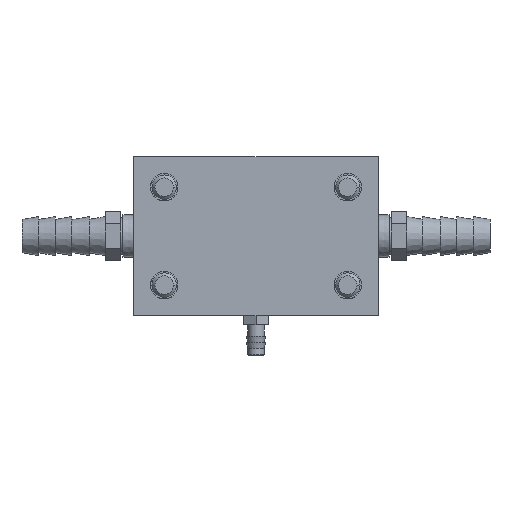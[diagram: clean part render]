
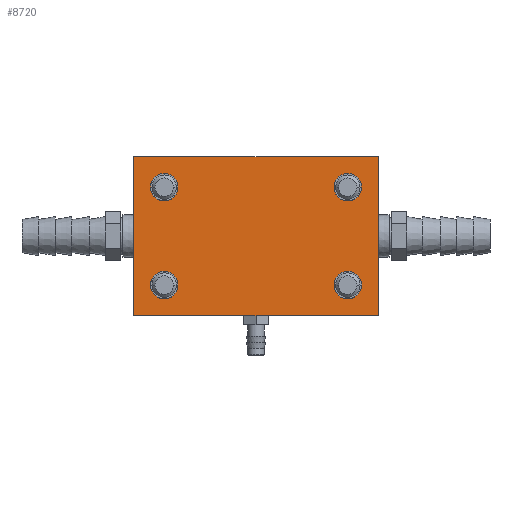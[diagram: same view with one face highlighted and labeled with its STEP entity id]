
A CAD part, left-side view. The second image highlights one B-rep face of the part: STEP entity #8720.
In plain terms, the highlighted planar face has unit normal (-1, 0, 0).
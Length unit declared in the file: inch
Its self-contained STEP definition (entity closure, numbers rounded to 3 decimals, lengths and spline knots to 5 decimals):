
#8458=CARTESIAN_POINT('',(-3.125,-0.9375,-0.5));
#8459=DIRECTION('',(1.,0.,0.));
#8460=DIRECTION('',(0.,-1.,0.));
#8461=AXIS2_PLACEMENT_3D('',#8458,#8459,#8460);
#8463=CARTESIAN_POINT('',(-3.125,-0.9375,-0.5));
#8464=DIRECTION('',(1.,0.,0.));
#8465=DIRECTION('',(0.,1.,0.));
#8466=AXIS2_PLACEMENT_3D('',#8463,#8464,#8465);
#8468=CARTESIAN_POINT('',(-3.125,0.9375,-0.5));
#8469=DIRECTION('',(1.,0.,0.));
#8470=DIRECTION('',(0.,-1.,0.));
#8471=AXIS2_PLACEMENT_3D('',#8468,#8469,#8470);
#8473=CARTESIAN_POINT('',(-3.125,0.9375,-0.5));
#8474=DIRECTION('',(1.,0.,0.));
#8475=DIRECTION('',(0.,1.,0.));
#8476=AXIS2_PLACEMENT_3D('',#8473,#8474,#8475);
#8478=CARTESIAN_POINT('',(-3.125,0.9375,0.5));
#8479=DIRECTION('',(1.,0.,0.));
#8480=DIRECTION('',(0.,-1.,0.));
#8481=AXIS2_PLACEMENT_3D('',#8478,#8479,#8480);
#8483=CARTESIAN_POINT('',(-3.125,0.9375,0.5));
#8484=DIRECTION('',(1.,0.,0.));
#8485=DIRECTION('',(0.,1.,0.));
#8486=AXIS2_PLACEMENT_3D('',#8483,#8484,#8485);
#8488=CARTESIAN_POINT('',(-3.125,-0.9375,0.5));
#8489=DIRECTION('',(1.,0.,0.));
#8490=DIRECTION('',(0.,-1.,0.));
#8491=AXIS2_PLACEMENT_3D('',#8488,#8489,#8490);
#8493=CARTESIAN_POINT('',(-3.125,-0.9375,0.5));
#8494=DIRECTION('',(1.,0.,0.));
#8495=DIRECTION('',(0.,1.,0.));
#8496=AXIS2_PLACEMENT_3D('',#8493,#8494,#8495);
#8590=DIRECTION('',(0.,0.,-1.));
#8591=VECTOR('',#8590,1.625);
#8592=CARTESIAN_POINT('',(-3.125,-1.25,0.8125));
#8593=LINE('',#8592,#8591);
#8598=DIRECTION('',(0.,1.,0.));
#8599=VECTOR('',#8598,2.5);
#8600=CARTESIAN_POINT('',(-3.125,-1.25,-0.8125));
#8601=LINE('',#8600,#8599);
#8602=DIRECTION('',(0.,0.,1.));
#8603=VECTOR('',#8602,1.625);
#8604=CARTESIAN_POINT('',(-3.125,1.25,-0.8125));
#8605=LINE('',#8604,#8603);
#8610=DIRECTION('',(0.,-1.,0.));
#8611=VECTOR('',#8610,2.5);
#8612=CARTESIAN_POINT('',(-3.125,1.25,0.8125));
#8613=LINE('',#8612,#8611);
#8622=CARTESIAN_POINT('',(-3.125,-1.25,-0.8125));
#8623=CARTESIAN_POINT('',(-3.125,1.25,-0.8125));
#8624=VERTEX_POINT('',#8622);
#8625=VERTEX_POINT('',#8623);
#8628=CARTESIAN_POINT('',(-3.125,-1.25,0.8125));
#8629=VERTEX_POINT('',#8628);
#8630=CARTESIAN_POINT('',(-3.125,1.25,0.8125));
#8631=VERTEX_POINT('',#8630);
#8634=CARTESIAN_POINT('',(-3.125,1.07813,0.5));
#8636=VERTEX_POINT('',#8634);
#8638=CARTESIAN_POINT('',(-3.125,0.79688,0.5));
#8640=VERTEX_POINT('',#8638);
#8642=CARTESIAN_POINT('',(-3.125,-0.79688,0.5));
#8644=VERTEX_POINT('',#8642);
#8646=CARTESIAN_POINT('',(-3.125,-1.07813,0.5));
#8648=VERTEX_POINT('',#8646);
#8650=CARTESIAN_POINT('',(-3.125,1.07813,-0.5));
#8652=VERTEX_POINT('',#8650);
#8654=CARTESIAN_POINT('',(-3.125,0.79688,-0.5));
#8656=VERTEX_POINT('',#8654);
#8658=CARTESIAN_POINT('',(-3.125,-0.79688,-0.5));
#8660=VERTEX_POINT('',#8658);
#8662=CARTESIAN_POINT('',(-3.125,-1.07813,-0.5));
#8664=VERTEX_POINT('',#8662);
#8682=CARTESIAN_POINT('',(-3.125,0.,0.));
#8683=DIRECTION('',(1.,0.,0.));
#8684=DIRECTION('',(0.,-1.,0.));
#8685=AXIS2_PLACEMENT_3D('',#8682,#8683,#8684);
#8686=PLANE('',#8685);
#8688=ORIENTED_EDGE('',*,*,#8687,.T.);
#8690=ORIENTED_EDGE('',*,*,#8689,.T.);
#8692=ORIENTED_EDGE('',*,*,#8691,.T.);
#8694=ORIENTED_EDGE('',*,*,#8693,.T.);
#8695=EDGE_LOOP('',(#8688,#8690,#8692,#8694));
#8696=FACE_OUTER_BOUND('',#8695,.F.);
#8698=ORIENTED_EDGE('',*,*,#8697,.F.);
#8700=ORIENTED_EDGE('',*,*,#8699,.F.);
#8701=EDGE_LOOP('',(#8698,#8700));
#8702=FACE_BOUND('',#8701,.F.);
#8703=ORIENTED_EDGE('',*,*,#8671,.F.);
#8705=ORIENTED_EDGE('',*,*,#8704,.F.);
#8706=EDGE_LOOP('',(#8703,#8705));
#8707=FACE_BOUND('',#8706,.F.);
#8709=ORIENTED_EDGE('',*,*,#8708,.F.);
#8711=ORIENTED_EDGE('',*,*,#8710,.F.);
#8712=EDGE_LOOP('',(#8709,#8711));
#8713=FACE_BOUND('',#8712,.F.);
#8715=ORIENTED_EDGE('',*,*,#8714,.F.);
#8717=ORIENTED_EDGE('',*,*,#8716,.F.);
#8718=EDGE_LOOP('',(#8715,#8717));
#8719=FACE_BOUND('',#8718,.F.);
#8462=CIRCLE('',#8461,0.14063);
#8467=CIRCLE('',#8466,0.14063);
#8472=CIRCLE('',#8471,0.14063);
#8477=CIRCLE('',#8476,0.14063);
#8482=CIRCLE('',#8481,0.14063);
#8487=CIRCLE('',#8486,0.14063);
#8492=CIRCLE('',#8491,0.14063);
#8497=CIRCLE('',#8496,0.14063);
#8671=EDGE_CURVE('',#8640,#8636,#8482,.T.);
#8687=EDGE_CURVE('',#8624,#8625,#8601,.T.);
#8689=EDGE_CURVE('',#8625,#8631,#8605,.T.);
#8691=EDGE_CURVE('',#8631,#8629,#8613,.T.);
#8693=EDGE_CURVE('',#8629,#8624,#8593,.T.);
#8697=EDGE_CURVE('',#8656,#8652,#8472,.T.);
#8699=EDGE_CURVE('',#8652,#8656,#8477,.T.);
#8704=EDGE_CURVE('',#8636,#8640,#8487,.T.);
#8708=EDGE_CURVE('',#8648,#8644,#8492,.T.);
#8710=EDGE_CURVE('',#8644,#8648,#8497,.T.);
#8714=EDGE_CURVE('',#8664,#8660,#8462,.T.);
#8716=EDGE_CURVE('',#8660,#8664,#8467,.T.);
#8720=ADVANCED_FACE('',(#8696,#8702,#8707,#8713,#8719),#8686,.F.);
